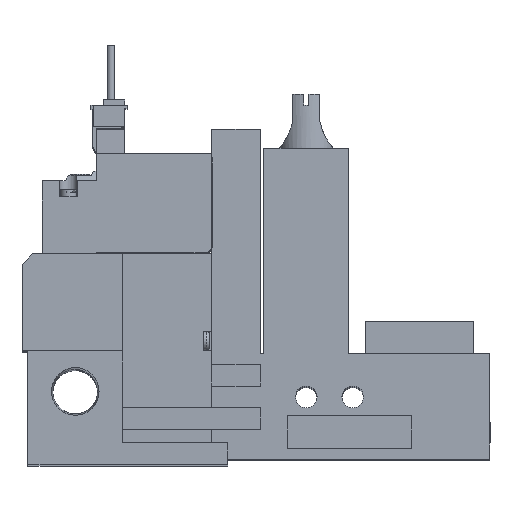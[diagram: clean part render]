
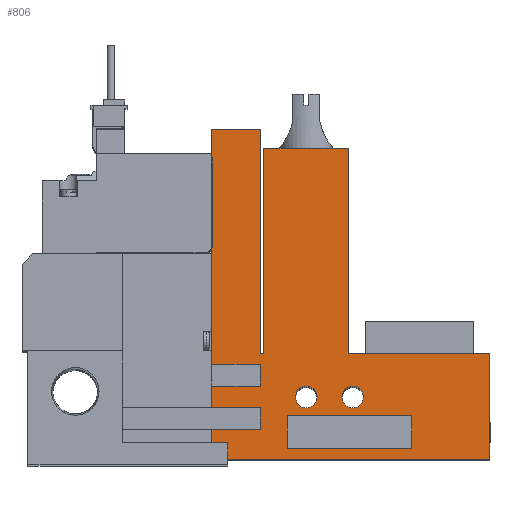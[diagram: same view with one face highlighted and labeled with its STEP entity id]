
A CAD part, top view. The second image highlights one B-rep face of the part: STEP entity #806.
In plain terms, the highlighted planar face has unit normal (0, 0, 1).
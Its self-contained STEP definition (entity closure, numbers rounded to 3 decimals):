
#806=ADVANCED_FACE('',(#1527,#1528,#1529,#1530),#1531,.T.);
#1527=FACE_OUTER_BOUND('',#2637,.T.);
#1528=FACE_BOUND('',#2638,.T.);
#1529=FACE_BOUND('',#2639,.T.);
#1530=FACE_BOUND('',#2640,.T.);
#1531=PLANE('',#2641);
#2637=EDGE_LOOP('',(#5175,#5176,#5177,#5178,#5179,#5180,#5181,#5182,#5183,#5184,#5185,#5186,#5187,#5188,#5189,#5190,#5191,#5192));
#2638=EDGE_LOOP('',(#5193,#5194,#5195,#5196));
#2639=EDGE_LOOP('',(#5197));
#2640=EDGE_LOOP('',(#5198));
#2641=AXIS2_PLACEMENT_3D('',#5199,#5200,#5201);
#5175=ORIENTED_EDGE('',*,*,#7478,.T.);
#5176=ORIENTED_EDGE('',*,*,#7479,.T.);
#5177=ORIENTED_EDGE('',*,*,#7480,.T.);
#5178=ORIENTED_EDGE('',*,*,#7481,.T.);
#5179=ORIENTED_EDGE('',*,*,#7482,.T.);
#5180=ORIENTED_EDGE('',*,*,#7483,.T.);
#5181=ORIENTED_EDGE('',*,*,#7484,.T.);
#5182=ORIENTED_EDGE('',*,*,#7485,.T.);
#5183=ORIENTED_EDGE('',*,*,#7486,.T.);
#5184=ORIENTED_EDGE('',*,*,#7487,.T.);
#5185=ORIENTED_EDGE('',*,*,#7488,.T.);
#5186=ORIENTED_EDGE('',*,*,#7489,.T.);
#5187=ORIENTED_EDGE('',*,*,#7490,.T.);
#5188=ORIENTED_EDGE('',*,*,#7491,.T.);
#5189=ORIENTED_EDGE('',*,*,#7492,.T.);
#5190=ORIENTED_EDGE('',*,*,#7493,.T.);
#5191=ORIENTED_EDGE('',*,*,#7494,.T.);
#5192=ORIENTED_EDGE('',*,*,#7495,.T.);
#5193=ORIENTED_EDGE('',*,*,#7477,.T.);
#5194=ORIENTED_EDGE('',*,*,#7496,.T.);
#5195=ORIENTED_EDGE('',*,*,#7497,.T.);
#5196=ORIENTED_EDGE('',*,*,#7498,.T.);
#5197=ORIENTED_EDGE('',*,*,#7499,.T.);
#5198=ORIENTED_EDGE('',*,*,#7500,.T.);
#5199=CARTESIAN_POINT('',(0.0,0.0,10.0));
#5200=DIRECTION('',(0.0,0.0,1.0));
#5201=DIRECTION('',(1.0,0.0,0.0));
#7477=EDGE_CURVE('',#8999,#9004,#9006,.T.);
#7478=EDGE_CURVE('',#9007,#9008,#9009,.T.);
#7479=EDGE_CURVE('',#9008,#9010,#9011,.T.);
#7480=EDGE_CURVE('',#9010,#9012,#9013,.T.);
#7481=EDGE_CURVE('',#9012,#9014,#9015,.T.);
#7482=EDGE_CURVE('',#9014,#9016,#9017,.T.);
#7483=EDGE_CURVE('',#9016,#9018,#9019,.T.);
#7484=EDGE_CURVE('',#9018,#9020,#9021,.T.);
#7485=EDGE_CURVE('',#9020,#9022,#9023,.T.);
#7486=EDGE_CURVE('',#9022,#9024,#9025,.T.);
#7487=EDGE_CURVE('',#9024,#9026,#9027,.T.);
#7488=EDGE_CURVE('',#9026,#9028,#9029,.T.);
#7489=EDGE_CURVE('',#9028,#9030,#9031,.T.);
#7490=EDGE_CURVE('',#9030,#9032,#9033,.T.);
#7491=EDGE_CURVE('',#9032,#9034,#9035,.T.);
#7492=EDGE_CURVE('',#9034,#9036,#9037,.T.);
#7493=EDGE_CURVE('',#9036,#9038,#9039,.T.);
#7494=EDGE_CURVE('',#9038,#9040,#9041,.T.);
#7495=EDGE_CURVE('',#9040,#9007,#9042,.T.);
#7496=EDGE_CURVE('',#9004,#9043,#9044,.T.);
#7497=EDGE_CURVE('',#9043,#9045,#9046,.T.);
#7498=EDGE_CURVE('',#9045,#8999,#9047,.T.);
#7499=EDGE_CURVE('',#9048,#9048,#9049,.T.);
#7500=EDGE_CURVE('',#9050,#9050,#9051,.T.);
#8999=VERTEX_POINT('',#11486);
#9004=VERTEX_POINT('',#11493);
#9006=LINE('',#11496,#11497);
#9007=VERTEX_POINT('',#11498);
#9008=VERTEX_POINT('',#11499);
#9009=LINE('',#11500,#11501);
#9010=VERTEX_POINT('',#11502);
#9011=LINE('',#11503,#11504);
#9012=VERTEX_POINT('',#11505);
#9013=LINE('',#11506,#11507);
#9014=VERTEX_POINT('',#11508);
#9015=LINE('',#11509,#11510);
#9016=VERTEX_POINT('',#11511);
#9017=LINE('',#11512,#11513);
#9018=VERTEX_POINT('',#11514);
#9019=LINE('',#11515,#11516);
#9020=VERTEX_POINT('',#11517);
#9021=LINE('',#11518,#11519);
#9022=VERTEX_POINT('',#11520);
#9023=LINE('',#11521,#11522);
#9024=VERTEX_POINT('',#11523);
#9025=LINE('',#11524,#11525);
#9026=VERTEX_POINT('',#11526);
#9027=LINE('',#11527,#11528);
#9028=VERTEX_POINT('',#11529);
#9029=LINE('',#11530,#11531);
#9030=VERTEX_POINT('',#11532);
#9031=LINE('',#11533,#11534);
#9032=VERTEX_POINT('',#11535);
#9033=LINE('',#11536,#11537);
#9034=VERTEX_POINT('',#11538);
#9035=LINE('',#11539,#11540);
#9036=VERTEX_POINT('',#11541);
#9037=LINE('',#11542,#11543);
#9038=VERTEX_POINT('',#11544);
#9039=LINE('',#11545,#11546);
#9040=VERTEX_POINT('',#11547);
#9041=LINE('',#11548,#11549);
#9042=LINE('',#11550,#11551);
#9043=VERTEX_POINT('',#11552);
#9044=LINE('',#11553,#11554);
#9045=VERTEX_POINT('',#11555);
#9046=LINE('',#11556,#11557);
#9047=LINE('',#11558,#11559);
#9048=VERTEX_POINT('',#11560);
#9049=CIRCLE('',#11561,2.0);
#9050=VERTEX_POINT('',#11562);
#9051=CIRCLE('',#11563,2.0);
#11486=CARTESIAN_POINT('',(49.1,2.0,10.0));
#11493=CARTESIAN_POINT('',(49.1,8.0,10.0));
#11496=CARTESIAN_POINT('',(49.1,0.0,10.0));
#11497=VECTOR('',#13714,1.0);
#11498=CARTESIAN_POINT('',(35.1,61.0,10.0));
#11499=CARTESIAN_POINT('',(35.1,17.5,10.0));
#11500=CARTESIAN_POINT('',(35.1,61.0,10.0));
#11501=VECTOR('',#13715,1.0);
#11502=CARTESIAN_POINT('',(44.1,17.5,10.0));
#11503=CARTESIAN_POINT('',(0.0,17.5,10.0));
#11504=VECTOR('',#13716,1.0);
#11505=CARTESIAN_POINT('',(44.1,13.5,10.0));
#11506=CARTESIAN_POINT('',(44.1,0.0,10.0));
#11507=VECTOR('',#13717,1.0);
#11508=CARTESIAN_POINT('',(35.1,13.5,10.0));
#11509=CARTESIAN_POINT('',(0.0,13.5,10.0));
#11510=VECTOR('',#13718,1.0);
#11511=CARTESIAN_POINT('',(35.1,9.5,10.0));
#11512=CARTESIAN_POINT('',(35.1,0.0,10.0));
#11513=VECTOR('',#13719,1.0);
#11514=CARTESIAN_POINT('',(44.1,9.5,10.0));
#11515=CARTESIAN_POINT('',(0.0,9.5,10.0));
#11516=VECTOR('',#13720,1.0);
#11517=CARTESIAN_POINT('',(44.1,5.5,10.0));
#11518=CARTESIAN_POINT('',(44.1,0.0,10.0));
#11519=VECTOR('',#13721,1.0);
#11520=CARTESIAN_POINT('',(35.1,5.5,10.0));
#11521=CARTESIAN_POINT('',(0.0,5.5,10.0));
#11522=VECTOR('',#13722,1.0);
#11523=CARTESIAN_POINT('',(35.1,0.0,10.0));
#11524=CARTESIAN_POINT('',(35.1,0.0,10.0));
#11525=VECTOR('',#13723,1.0);
#11526=CARTESIAN_POINT('',(86.6,0.0,10.0));
#11527=CARTESIAN_POINT('',(18.6,0.0,10.0));
#11528=VECTOR('',#13724,1.0);
#11529=CARTESIAN_POINT('',(86.6,19.5,10.0));
#11530=CARTESIAN_POINT('',(86.6,0.0,10.0));
#11531=VECTOR('',#13725,1.0);
#11532=CARTESIAN_POINT('',(60.45,19.5,10.0));
#11533=CARTESIAN_POINT('',(86.6,19.5,10.0));
#11534=VECTOR('',#13726,1.0);
#11535=CARTESIAN_POINT('',(60.45,57.5,10.0));
#11536=CARTESIAN_POINT('',(60.45,19.5,10.0));
#11537=VECTOR('',#13727,1.0);
#11538=CARTESIAN_POINT('',(44.75,57.5,10.0));
#11539=CARTESIAN_POINT('',(60.45,57.5,10.0));
#11540=VECTOR('',#13728,1.0);
#11541=CARTESIAN_POINT('',(44.75,19.5,10.0));
#11542=CARTESIAN_POINT('',(44.75,57.5,10.0));
#11543=VECTOR('',#13729,1.0);
#11544=CARTESIAN_POINT('',(44.1,19.5,10.0));
#11545=CARTESIAN_POINT('',(44.75,19.5,10.0));
#11546=VECTOR('',#13730,1.0);
#11547=CARTESIAN_POINT('',(44.1,61.0,10.0));
#11548=CARTESIAN_POINT('',(44.1,19.5,10.0));
#11549=VECTOR('',#13731,1.0);
#11550=CARTESIAN_POINT('',(44.1,61.0,10.0));
#11551=VECTOR('',#13732,1.0);
#11552=CARTESIAN_POINT('',(72.1,8.0,10.0));
#11553=CARTESIAN_POINT('',(0.0,8.0,10.0));
#11554=VECTOR('',#13733,1.0);
#11555=CARTESIAN_POINT('',(72.1,2.0,10.0));
#11556=CARTESIAN_POINT('',(72.1,0.0,10.0));
#11557=VECTOR('',#13734,1.0);
#11558=CARTESIAN_POINT('',(0.0,2.0,10.0));
#11559=VECTOR('',#13735,1.0);
#11560=CARTESIAN_POINT('',(54.6,11.5,10.0));
#11561=AXIS2_PLACEMENT_3D('',#13736,#13737,#13738);
#11562=CARTESIAN_POINT('',(63.2,11.5,10.0));
#11563=AXIS2_PLACEMENT_3D('',#13739,#13740,#13741);
#13714=DIRECTION('',(0.0,1.0,0.0));
#13715=DIRECTION('',(0.0,-1.0,0.0));
#13716=DIRECTION('',(1.0,0.0,0.0));
#13717=DIRECTION('',(0.0,-1.0,0.0));
#13718=DIRECTION('',(-1.0,0.0,0.0));
#13719=DIRECTION('',(0.0,-1.0,0.0));
#13720=DIRECTION('',(1.0,0.0,0.0));
#13721=DIRECTION('',(0.0,-1.0,0.0));
#13722=DIRECTION('',(-1.0,0.0,0.0));
#13723=DIRECTION('',(0.0,-1.0,0.0));
#13724=DIRECTION('',(1.0,0.0,0.0));
#13725=DIRECTION('',(0.0,1.0,0.0));
#13726=DIRECTION('',(-1.0,0.0,0.0));
#13727=DIRECTION('',(0.0,1.0,0.0));
#13728=DIRECTION('',(-1.0,0.0,0.0));
#13729=DIRECTION('',(0.0,-1.0,0.0));
#13730=DIRECTION('',(-1.0,0.0,0.0));
#13731=DIRECTION('',(0.0,1.0,0.0));
#13732=DIRECTION('',(-1.0,0.0,0.0));
#13733=DIRECTION('',(1.0,0.0,0.0));
#13734=DIRECTION('',(0.0,-1.0,0.0));
#13735=DIRECTION('',(-1.0,0.0,0.0));
#13736=CARTESIAN_POINT('',(52.6,11.5,10.0));
#13737=DIRECTION('',(0.0,0.0,-1.0));
#13738=DIRECTION('',(1.0,0.0,0.0));
#13739=CARTESIAN_POINT('',(61.2,11.5,10.0));
#13740=DIRECTION('',(0.0,0.0,-1.0));
#13741=DIRECTION('',(1.0,0.0,0.0));
